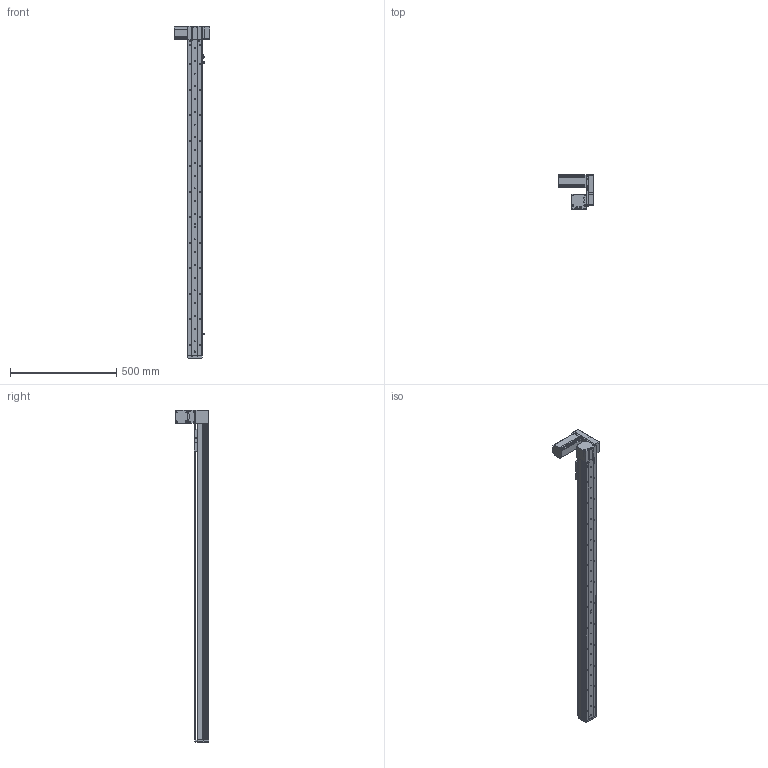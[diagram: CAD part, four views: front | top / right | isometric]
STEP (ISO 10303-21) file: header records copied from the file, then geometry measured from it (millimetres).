
FILE_DESCRIPTION (( 'STEP AP214' ), '1' );
FILE_NAME ('KSD68BS-S1300-MLU-CM.STEP', '2019-08-22T03:12:55', ( '微软用户' ), ( '微软中国' ), 'SwSTEP 2.0', 'SolidWorks 2014', '' );
FILE_SCHEMA (( 'AUTOMOTIVE_DESIGN' ));
Length unit declared in the file: millimetre
Products named in the file (11): 悵誘欶奻狟殏; 68宽马达安装板连板上折同步带; 68宽单导轨半封闭同步带主动轮座左; 68单导轨同步带半封闭端板; KSD68BS 1300俴最裔啣圉猾敕; 覜茼え68遵圉猾敕; KSD68BS半封闭同步带传动导轨座; U倰嫖萇EEㄜSX672; 台达ECMA－C20604AS伺服电机（400W); KSD68BS 1300俴最菁啣圉猾敕; KSD68BS-S1300-MLU-CM
Assembly tree (12 placements, depth 2):
  KSD68BS-S1300-MLU-CM
    KSD68BS 1300俴最菁啣圉猾敕
    台达ECMA－C20604AS伺服电机（400W)
    U倰嫖萇EEㄜSX672  x3
    KSD68BS半封闭同步带传动导轨座
    覜茼え68遵圉猾敕
    KSD68BS 1300俴最裔啣圉猾敕
    68单导轨同步带半封闭端板
    68宽单导轨半封闭同步带主动轮座左
    68宽马达安装板连板上折同步带
    悵誘欶奻狟殏
Bounding box: 167.2 x 159.5 x 1562 mm (x, y, z)
Volume: 2748981.4 mm3; surface area: 998621.5 mm2
Topology: 13 solids, 13 shells, 1506 faces, 4380 edges, 2852 vertices
Faces by surface type: cylinder 778, plane 645, cone 83
Entity records: 57518 total; most frequent: CARTESIAN_POINT 11370, ORIENTED_EDGE 7512, DIRECTION 7320, EDGE_CURVE 3756, AXIS2_PLACEMENT_3D 2634, VERTEX_POINT 2476, LINE 2052, VECTOR 2052
